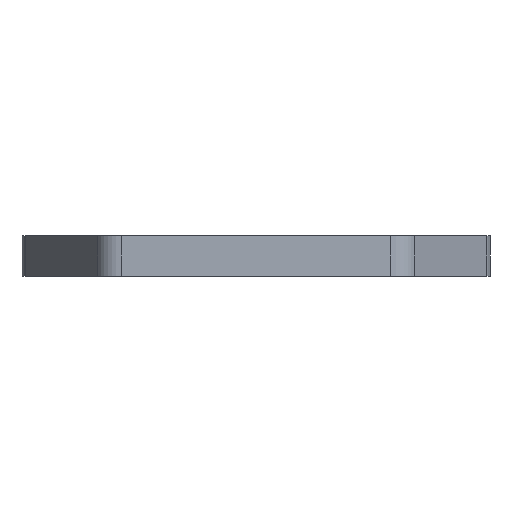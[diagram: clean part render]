
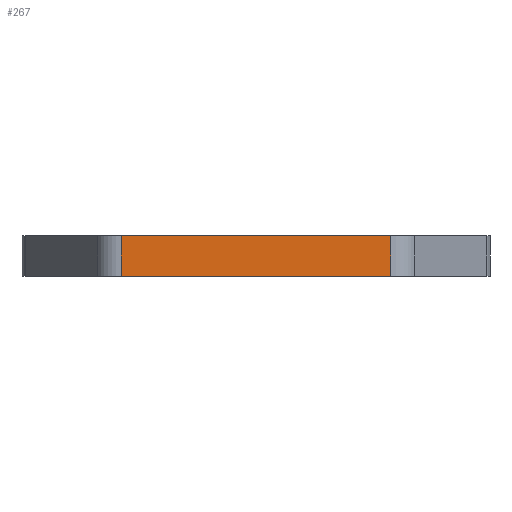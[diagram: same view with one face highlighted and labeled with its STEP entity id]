
A CAD part, front view. The second image highlights one B-rep face of the part: STEP entity #267.
In plain terms, the highlighted planar face has unit normal (0, -1, 0).
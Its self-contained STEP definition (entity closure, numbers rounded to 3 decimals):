
#90 = VERTEX_POINT ( 'NONE', #453 ) ;
#99 = VERTEX_POINT ( 'NONE', #474 ) ;
#119 = EDGE_CURVE ( 'NONE', #90, #99, #547, .T. ) ;
#129 = VERTEX_POINT ( 'NONE', #591 ) ;
#132 = VERTEX_POINT ( 'NONE', #577 ) ;
#134 = EDGE_CURVE ( 'NONE', #129, #132, #576, .T. ) ;
#187 = EDGE_CURVE ( 'NONE', #129, #90, #685, .T. ) ;
#191 = EDGE_CURVE ( 'NONE', #132, #99, #655, .T. ) ;
#192 = ORIENTED_EDGE ( 'NONE', *, *, #191, .F. ) ;
#193 = EDGE_LOOP ( 'NONE', ( #245, #192, #262, #260 ) ) ;
#245 = ORIENTED_EDGE ( 'NONE', *, *, #119, .T. ) ;
#260 = ORIENTED_EDGE ( 'NONE', *, *, #187, .T. ) ;
#262 = ORIENTED_EDGE ( 'NONE', *, *, #134, .F. ) ;
#267 = ADVANCED_FACE ( 'NONE', ( #770 ), #513, .F. ) ;
#453 = CARTESIAN_POINT ( 'NONE',  ( -1123.514, 1953.691, 0. ) ) ;
#474 = CARTESIAN_POINT ( 'NONE',  ( -1096.594, 1953.691, 0. ) ) ;
#504 = AXIS2_PLACEMENT_3D ( 'NONE', #515, #528, #514 ) ;
#513 = PLANE ( 'NONE',  #504 ) ;
#514 = DIRECTION ( 'NONE',  ( -1., 0., 0. ) ) ;
#515 = CARTESIAN_POINT ( 'NONE',  ( -1096.594, 1953.691, 4. ) ) ;
#528 = DIRECTION ( 'NONE',  ( 0., 1., 0. ) ) ;
#544 = DIRECTION ( 'NONE',  ( 1., 0., 0. ) ) ;
#545 = VECTOR ( 'NONE', #544, 1000. ) ;
#546 = CARTESIAN_POINT ( 'NONE',  ( -1096.594, 1953.691, 0. ) ) ;
#547 = LINE ( 'NONE', #546, #545 ) ;
#574 = DIRECTION ( 'NONE',  ( 1., 0., 0. ) ) ;
#575 = VECTOR ( 'NONE', #574, 1000. ) ;
#576 = LINE ( 'NONE', #578, #575 ) ;
#577 = CARTESIAN_POINT ( 'NONE',  ( -1096.594, 1953.691, 4. ) ) ;
#578 = CARTESIAN_POINT ( 'NONE',  ( -1096.594, 1953.691, 4. ) ) ;
#591 = CARTESIAN_POINT ( 'NONE',  ( -1123.514, 1953.691, 4. ) ) ;
#633 = CARTESIAN_POINT ( 'NONE',  ( -1096.594, 1953.691, 4. ) ) ;
#638 = CARTESIAN_POINT ( 'NONE',  ( -1123.514, 1953.691, 4. ) ) ;
#655 = LINE ( 'NONE', #633, #683 ) ;
#681 = DIRECTION ( 'NONE',  ( 0., 0., -1. ) ) ;
#683 = VECTOR ( 'NONE', #681, 1000. ) ;
#684 = VECTOR ( 'NONE', #690, 1000. ) ;
#685 = LINE ( 'NONE', #638, #684 ) ;
#690 = DIRECTION ( 'NONE',  ( 0., 0., -1. ) ) ;
#770 = FACE_OUTER_BOUND ( 'NONE', #193, .T. ) ;
